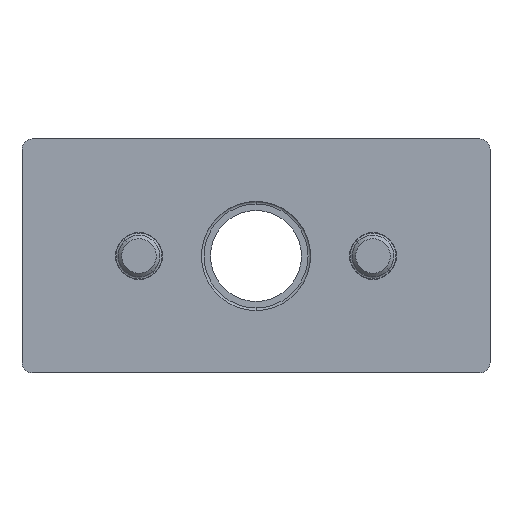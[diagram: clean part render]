
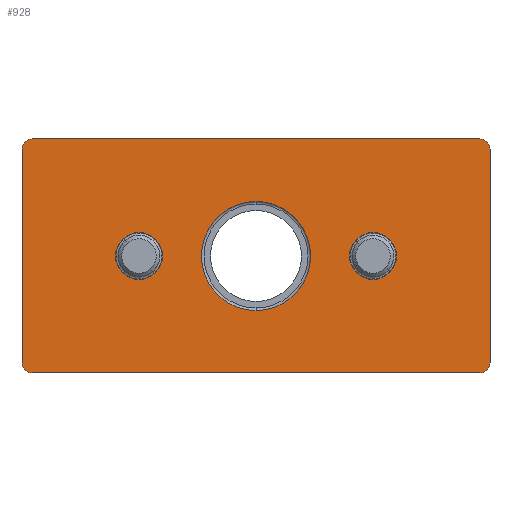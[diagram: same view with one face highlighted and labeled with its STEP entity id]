
A CAD part, front view. The second image highlights one B-rep face of the part: STEP entity #928.
In plain terms, the highlighted planar face has unit normal (0, -1, 0).
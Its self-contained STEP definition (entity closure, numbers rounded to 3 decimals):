
#4 = CIRCLE ( 'NONE', #872, 4.5 ) ;
#8 = EDGE_CURVE ( 'NONE', #421, #1645, #110, .T. ) ;
#73 = AXIS2_PLACEMENT_3D ( 'NONE', #608, #1818, #2719 ) ;
#81 = CARTESIAN_POINT ( 'NONE',  ( -3.208, -4.258, -0.612 ) ) ;
#110 = CIRCLE ( 'NONE', #3721, 4.5 ) ;
#136 = VERTEX_POINT ( 'NONE', #3325 ) ;
#157 = VERTEX_POINT ( 'NONE', #3100 ) ;
#185 = DIRECTION ( 'NONE',  ( 0., 0., 1. ) ) ;
#258 = VERTEX_POINT ( 'NONE', #1495 ) ;
#284 = CARTESIAN_POINT ( 'NONE',  ( -48.208, -4.258, 21.888 ) ) ;
#346 = ORIENTED_EDGE ( 'NONE', *, *, #2577, .T. ) ;
#355 = FACE_BOUND ( 'NONE', #2548, .T. ) ;
#384 = CIRCLE ( 'NONE', #73, 10.5 ) ;
#404 = AXIS2_PLACEMENT_3D ( 'NONE', #911, #794, #2860 ) ;
#412 = EDGE_CURVE ( 'NONE', #2298, #136, #1241, .T. ) ;
#421 = VERTEX_POINT ( 'NONE', #2950 ) ;
#443 = CIRCLE ( 'NONE', #3620, 2. ) ;
#466 = CIRCLE ( 'NONE', #404, 2. ) ;
#553 = LINE ( 'NONE', #886, #1871 ) ;
#566 = EDGE_CURVE ( 'NONE', #1488, #258, #760, .T. ) ;
#568 = EDGE_CURVE ( 'NONE', #2301, #157, #1208, .T. ) ;
#590 = CARTESIAN_POINT ( 'NONE',  ( 41.792, -4.258, 21.888 ) ) ;
#608 = CARTESIAN_POINT ( 'NONE',  ( -3.208, -4.258, -0.612 ) ) ;
#616 = AXIS2_PLACEMENT_3D ( 'NONE', #81, #2405, #919 ) ;
#623 = CARTESIAN_POINT ( 'NONE',  ( 19.292, -4.258, 3.888 ) ) ;
#624 = FACE_BOUND ( 'NONE', #1220, .T. ) ;
#627 = VERTEX_POINT ( 'NONE', #2514 ) ;
#632 = DIRECTION ( 'NONE',  ( 0., 1., 0. ) ) ;
#634 = VECTOR ( 'NONE', #1177, 1000. ) ;
#733 = ORIENTED_EDGE ( 'NONE', *, *, #1376, .F. ) ;
#760 = CIRCLE ( 'NONE', #2505, 4.5 ) ;
#776 = CARTESIAN_POINT ( 'NONE',  ( -25.708, -4.258, 3.888 ) ) ;
#780 = ORIENTED_EDGE ( 'NONE', *, *, #2887, .F. ) ;
#794 = DIRECTION ( 'NONE',  ( 0., -1., 0. ) ) ;
#829 = CARTESIAN_POINT ( 'NONE',  ( -3.208, -4.258, -0.612 ) ) ;
#843 = CARTESIAN_POINT ( 'NONE',  ( 19.292, -4.258, -0.612 ) ) ;
#872 = AXIS2_PLACEMENT_3D ( 'NONE', #1529, #632, #1544 ) ;
#877 = CARTESIAN_POINT ( 'NONE',  ( -25.708, -4.258, -0.612 ) ) ;
#878 = VERTEX_POINT ( 'NONE', #2390 ) ;
#879 = ORIENTED_EDGE ( 'NONE', *, *, #568, .F. ) ;
#886 = CARTESIAN_POINT ( 'NONE',  ( -48.208, -4.258, -23.112 ) ) ;
#894 = FACE_BOUND ( 'NONE', #2398, .T. ) ;
#911 = CARTESIAN_POINT ( 'NONE',  ( 39.792, -4.258, -21.112 ) ) ;
#919 = DIRECTION ( 'NONE',  ( 0., 0., 1. ) ) ;
#928 = ADVANCED_FACE ( 'NONE', ( #624, #355, #894, #1830 ), #2745, .F. ) ;
#950 = DIRECTION ( 'NONE',  ( 0., 0., 1. ) ) ;
#998 = ORIENTED_EDGE ( 'NONE', *, *, #2207, .T. ) ;
#1079 = CARTESIAN_POINT ( 'NONE',  ( -46.208, -4.258, 21.888 ) ) ;
#1097 = CARTESIAN_POINT ( 'NONE',  ( -25.708, -4.258, -0.612 ) ) ;
#1110 = DIRECTION ( 'NONE',  ( 0., 1., 0. ) ) ;
#1142 = EDGE_CURVE ( 'NONE', #878, #136, #2810, .T. ) ;
#1149 = DIRECTION ( 'NONE',  ( 0., 0., 1. ) ) ;
#1156 = DIRECTION ( 'NONE',  ( 0., 1., 0. ) ) ;
#1177 = DIRECTION ( 'NONE',  ( 1., 0., 0. ) ) ;
#1208 = LINE ( 'NONE', #2973, #2146 ) ;
#1220 = EDGE_LOOP ( 'NONE', ( #3759, #2647 ) ) ;
#1241 = LINE ( 'NONE', #284, #634 ) ;
#1315 = DIRECTION ( 'NONE',  ( 0., 0., 1. ) ) ;
#1334 = CARTESIAN_POINT ( 'NONE',  ( -48.208, -4.258, 19.888 ) ) ;
#1335 = ORIENTED_EDGE ( 'NONE', *, *, #2182, .F. ) ;
#1376 = EDGE_CURVE ( 'NONE', #2773, #2481, #2754, .T. ) ;
#1422 = EDGE_CURVE ( 'NONE', #627, #157, #3323, .T. ) ;
#1449 = DIRECTION ( 'NONE',  ( 0., 0., -1. ) ) ;
#1464 = ORIENTED_EDGE ( 'NONE', *, *, #566, .T. ) ;
#1488 = VERTEX_POINT ( 'NONE', #623 ) ;
#1495 = CARTESIAN_POINT ( 'NONE',  ( 19.292, -4.258, -5.112 ) ) ;
#1529 = CARTESIAN_POINT ( 'NONE',  ( 19.292, -4.258, -0.612 ) ) ;
#1544 = DIRECTION ( 'NONE',  ( 0., 0., 1. ) ) ;
#1590 = EDGE_LOOP ( 'NONE', ( #879, #346, #780, #1769, #2434, #2778, #3324, #2241 ) ) ;
#1628 = AXIS2_PLACEMENT_3D ( 'NONE', #829, #1766, #2955 ) ;
#1636 = CARTESIAN_POINT ( 'NONE',  ( -3.208, -4.258, 9.888 ) ) ;
#1645 = VERTEX_POINT ( 'NONE', #776 ) ;
#1669 = EDGE_CURVE ( 'NONE', #627, #3329, #553, .T. ) ;
#1748 = AXIS2_PLACEMENT_3D ( 'NONE', #2114, #3293, #1149 ) ;
#1766 = DIRECTION ( 'NONE',  ( 0., -1., 0. ) ) ;
#1769 = ORIENTED_EDGE ( 'NONE', *, *, #1142, .T. ) ;
#1818 = DIRECTION ( 'NONE',  ( 0., -1., 0. ) ) ;
#1830 = FACE_OUTER_BOUND ( 'NONE', #1590, .T. ) ;
#1871 = VECTOR ( 'NONE', #2089, 1000. ) ;
#1921 = DIRECTION ( 'NONE',  ( 0., -1., 0. ) ) ;
#2014 = CIRCLE ( 'NONE', #3127, 4.5 ) ;
#2035 = DIRECTION ( 'NONE',  ( 0., 1., 0. ) ) ;
#2089 = DIRECTION ( 'NONE',  ( 0., 0., 1. ) ) ;
#2114 = CARTESIAN_POINT ( 'NONE',  ( 39.792, -4.258, 19.888 ) ) ;
#2146 = VECTOR ( 'NONE', #3566, 1000. ) ;
#2182 = EDGE_CURVE ( 'NONE', #2481, #2773, #384, .T. ) ;
#2207 = EDGE_CURVE ( 'NONE', #258, #1488, #4, .T. ) ;
#2241 = ORIENTED_EDGE ( 'NONE', *, *, #1422, .T. ) ;
#2249 = EDGE_CURVE ( 'NONE', #2298, #3329, #443, .T. ) ;
#2298 = VERTEX_POINT ( 'NONE', #1079 ) ;
#2301 = VERTEX_POINT ( 'NONE', #2829 ) ;
#2390 = CARTESIAN_POINT ( 'NONE',  ( 41.792, -4.258, 19.888 ) ) ;
#2398 = EDGE_LOOP ( 'NONE', ( #733, #1335 ) ) ;
#2405 = DIRECTION ( 'NONE',  ( 0., 1., 0. ) ) ;
#2434 = ORIENTED_EDGE ( 'NONE', *, *, #412, .F. ) ;
#2481 = VERTEX_POINT ( 'NONE', #1636 ) ;
#2505 = AXIS2_PLACEMENT_3D ( 'NONE', #843, #1110, #3225 ) ;
#2514 = CARTESIAN_POINT ( 'NONE',  ( -48.208, -4.258, -21.112 ) ) ;
#2515 = VECTOR ( 'NONE', #1449, 1000. ) ;
#2548 = EDGE_LOOP ( 'NONE', ( #1464, #998 ) ) ;
#2577 = EDGE_CURVE ( 'NONE', #2301, #3307, #466, .T. ) ;
#2647 = ORIENTED_EDGE ( 'NONE', *, *, #8, .T. ) ;
#2719 = DIRECTION ( 'NONE',  ( 0., 0., -1. ) ) ;
#2726 = CARTESIAN_POINT ( 'NONE',  ( -46.208, -4.258, -21.112 ) ) ;
#2745 = PLANE ( 'NONE',  #616 ) ;
#2754 = CIRCLE ( 'NONE', #1628, 10.5 ) ;
#2773 = VERTEX_POINT ( 'NONE', #2868 ) ;
#2778 = ORIENTED_EDGE ( 'NONE', *, *, #2249, .T. ) ;
#2810 = CIRCLE ( 'NONE', #1748, 2. ) ;
#2829 = CARTESIAN_POINT ( 'NONE',  ( 39.792, -4.258, -23.112 ) ) ;
#2860 = DIRECTION ( 'NONE',  ( 0., 0., 1. ) ) ;
#2868 = CARTESIAN_POINT ( 'NONE',  ( -3.208, -4.258, -11.112 ) ) ;
#2887 = EDGE_CURVE ( 'NONE', #878, #3307, #3555, .T. ) ;
#2900 = DIRECTION ( 'NONE',  ( 0., 0., 1. ) ) ;
#2950 = CARTESIAN_POINT ( 'NONE',  ( -25.708, -4.258, -5.112 ) ) ;
#2955 = DIRECTION ( 'NONE',  ( 0., 0., -1. ) ) ;
#2973 = CARTESIAN_POINT ( 'NONE',  ( 41.792, -4.258, -23.112 ) ) ;
#3031 = CARTESIAN_POINT ( 'NONE',  ( -46.208, -4.258, 19.888 ) ) ;
#3061 = CARTESIAN_POINT ( 'NONE',  ( 41.792, -4.258, -21.112 ) ) ;
#3096 = EDGE_CURVE ( 'NONE', #1645, #421, #2014, .T. ) ;
#3100 = CARTESIAN_POINT ( 'NONE',  ( -46.208, -4.258, -23.112 ) ) ;
#3127 = AXIS2_PLACEMENT_3D ( 'NONE', #877, #1156, #2900 ) ;
#3225 = DIRECTION ( 'NONE',  ( 0., 0., 1. ) ) ;
#3293 = DIRECTION ( 'NONE',  ( 0., -1., 0. ) ) ;
#3307 = VERTEX_POINT ( 'NONE', #3061 ) ;
#3323 = CIRCLE ( 'NONE', #3807, 2. ) ;
#3324 = ORIENTED_EDGE ( 'NONE', *, *, #1669, .F. ) ;
#3325 = CARTESIAN_POINT ( 'NONE',  ( 39.792, -4.258, 21.888 ) ) ;
#3329 = VERTEX_POINT ( 'NONE', #1334 ) ;
#3555 = LINE ( 'NONE', #590, #2515 ) ;
#3566 = DIRECTION ( 'NONE',  ( -1., 0., 0. ) ) ;
#3620 = AXIS2_PLACEMENT_3D ( 'NONE', #3031, #1921, #1315 ) ;
#3666 = DIRECTION ( 'NONE',  ( 0., -1., 0. ) ) ;
#3721 = AXIS2_PLACEMENT_3D ( 'NONE', #1097, #2035, #185 ) ;
#3759 = ORIENTED_EDGE ( 'NONE', *, *, #3096, .T. ) ;
#3807 = AXIS2_PLACEMENT_3D ( 'NONE', #2726, #3666, #950 ) ;
